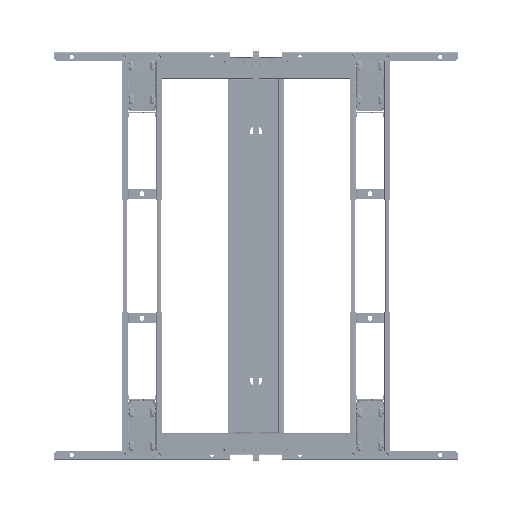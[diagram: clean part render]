
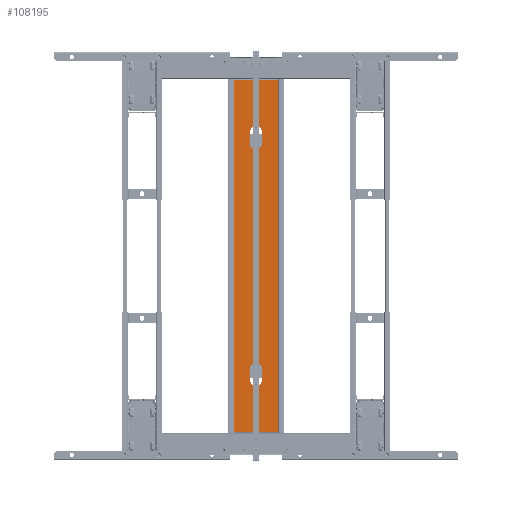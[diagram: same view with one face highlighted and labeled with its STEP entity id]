
A CAD part, top view. The second image highlights one B-rep face of the part: STEP entity #108195.
In plain terms, the highlighted planar face has unit normal (0, 0, 1).
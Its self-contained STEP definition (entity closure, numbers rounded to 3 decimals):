
#107755=CARTESIAN_POINT('Vertex',(602.3,-74.3,1.2)) ;
#108015=CARTESIAN_POINT('Line Origine',(602.3,0.,1.2)) ;
#108019=CARTESIAN_POINT('Vertex',(602.3,74.3,1.2)) ;
#108049=CARTESIAN_POINT('Axis2P3D Location',(0.,0.,1.2)) ;
#108054=CARTESIAN_POINT('Line Origine',(0.,74.3,1.2)) ;
#108058=CARTESIAN_POINT('Vertex',(-602.3,74.3,1.2)) ;
#108061=CARTESIAN_POINT('Line Origine',(-602.3,0.,1.2)) ;
#108065=CARTESIAN_POINT('Vertex',(-602.3,-74.3,1.2)) ;
#108068=CARTESIAN_POINT('Line Origine',(0.,-74.3,1.2)) ;
#108079=CARTESIAN_POINT('Line Origine',(0.,-20.,1.2)) ;
#108083=CARTESIAN_POINT('Vertex',(-424.,-20.,1.2)) ;
#108085=CARTESIAN_POINT('Vertex',(-384.,-20.,1.2)) ;
#108089=CARTESIAN_POINT('Control Point',(-424.,20.,1.2)) ;
#108090=CARTESIAN_POINT('Control Point',(-427.142,20.,1.2)) ;
#108091=CARTESIAN_POINT('Control Point',(-430.283,19.383,1.2)) ;
#108092=CARTESIAN_POINT('Control Point',(-433.263,18.149,1.2)) ;
#108093=CARTESIAN_POINT('Control Point',(-438.578,14.578,1.2)) ;
#108094=CARTESIAN_POINT('Control Point',(-442.149,9.263,1.2)) ;
#108095=CARTESIAN_POINT('Control Point',(-443.383,6.283,1.2)) ;
#108096=CARTESIAN_POINT('Control Point',(-444.617,0.,1.2)) ;
#108097=CARTESIAN_POINT('Control Point',(-443.383,-6.283,1.2)) ;
#108098=CARTESIAN_POINT('Control Point',(-442.149,-9.263,1.2)) ;
#108099=CARTESIAN_POINT('Control Point',(-438.578,-14.578,1.2)) ;
#108100=CARTESIAN_POINT('Control Point',(-433.263,-18.149,1.2)) ;
#108101=CARTESIAN_POINT('Control Point',(-430.283,-19.383,1.2)) ;
#108102=CARTESIAN_POINT('Control Point',(-427.142,-20.,1.2)) ;
#108103=CARTESIAN_POINT('Control Point',(-424.,-20.,1.2)) ;
#108104=CARTESIAN_POINT('Vertex',(-424.,20.,1.2)) ;
#108107=CARTESIAN_POINT('Line Origine',(0.,20.,1.2)) ;
#108111=CARTESIAN_POINT('Vertex',(-384.,20.,1.2)) ;
#108115=CARTESIAN_POINT('Control Point',(-384.,-20.,1.2)) ;
#108116=CARTESIAN_POINT('Control Point',(-380.858,-20.,1.2)) ;
#108117=CARTESIAN_POINT('Control Point',(-377.717,-19.383,1.2)) ;
#108118=CARTESIAN_POINT('Control Point',(-374.737,-18.149,1.2)) ;
#108119=CARTESIAN_POINT('Control Point',(-369.422,-14.578,1.2)) ;
#108120=CARTESIAN_POINT('Control Point',(-365.851,-9.263,1.2)) ;
#108121=CARTESIAN_POINT('Control Point',(-364.617,-6.283,1.2)) ;
#108122=CARTESIAN_POINT('Control Point',(-363.383,0.,1.2)) ;
#108123=CARTESIAN_POINT('Control Point',(-364.617,6.283,1.2)) ;
#108124=CARTESIAN_POINT('Control Point',(-365.851,9.263,1.2)) ;
#108125=CARTESIAN_POINT('Control Point',(-369.422,14.578,1.2)) ;
#108126=CARTESIAN_POINT('Control Point',(-374.737,18.149,1.2)) ;
#108127=CARTESIAN_POINT('Control Point',(-377.717,19.383,1.2)) ;
#108128=CARTESIAN_POINT('Control Point',(-380.858,20.,1.2)) ;
#108129=CARTESIAN_POINT('Control Point',(-384.,20.,1.2)) ;
#108138=CARTESIAN_POINT('Control Point',(424.,-20.,1.2)) ;
#108139=CARTESIAN_POINT('Control Point',(427.142,-20.,1.2)) ;
#108140=CARTESIAN_POINT('Control Point',(430.283,-19.383,1.2)) ;
#108141=CARTESIAN_POINT('Control Point',(433.263,-18.149,1.2)) ;
#108142=CARTESIAN_POINT('Control Point',(438.578,-14.578,1.2)) ;
#108143=CARTESIAN_POINT('Control Point',(442.149,-9.263,1.2)) ;
#108144=CARTESIAN_POINT('Control Point',(443.383,-6.283,1.2)) ;
#108145=CARTESIAN_POINT('Control Point',(444.617,0.,1.2)) ;
#108146=CARTESIAN_POINT('Control Point',(443.383,6.283,1.2)) ;
#108147=CARTESIAN_POINT('Control Point',(442.149,9.263,1.2)) ;
#108148=CARTESIAN_POINT('Control Point',(438.578,14.578,1.2)) ;
#108149=CARTESIAN_POINT('Control Point',(433.263,18.149,1.2)) ;
#108150=CARTESIAN_POINT('Control Point',(430.283,19.383,1.2)) ;
#108151=CARTESIAN_POINT('Control Point',(427.142,20.,1.2)) ;
#108152=CARTESIAN_POINT('Control Point',(424.,20.,1.2)) ;
#108153=CARTESIAN_POINT('Vertex',(424.,-20.,1.2)) ;
#108155=CARTESIAN_POINT('Vertex',(424.,20.,1.2)) ;
#108158=CARTESIAN_POINT('Line Origine',(0.,-20.,1.2)) ;
#108162=CARTESIAN_POINT('Vertex',(384.,-20.,1.2)) ;
#108166=CARTESIAN_POINT('Control Point',(384.,20.,1.2)) ;
#108167=CARTESIAN_POINT('Control Point',(380.858,20.,1.2)) ;
#108168=CARTESIAN_POINT('Control Point',(377.717,19.383,1.2)) ;
#108169=CARTESIAN_POINT('Control Point',(374.737,18.149,1.2)) ;
#108170=CARTESIAN_POINT('Control Point',(369.422,14.578,1.2)) ;
#108171=CARTESIAN_POINT('Control Point',(365.851,9.263,1.2)) ;
#108172=CARTESIAN_POINT('Control Point',(364.617,6.283,1.2)) ;
#108173=CARTESIAN_POINT('Control Point',(363.383,0.,1.2)) ;
#108174=CARTESIAN_POINT('Control Point',(364.617,-6.283,1.2)) ;
#108175=CARTESIAN_POINT('Control Point',(365.851,-9.263,1.2)) ;
#108176=CARTESIAN_POINT('Control Point',(369.422,-14.578,1.2)) ;
#108177=CARTESIAN_POINT('Control Point',(374.737,-18.149,1.2)) ;
#108178=CARTESIAN_POINT('Control Point',(377.717,-19.383,1.2)) ;
#108179=CARTESIAN_POINT('Control Point',(380.858,-20.,1.2)) ;
#108180=CARTESIAN_POINT('Control Point',(384.,-20.,1.2)) ;
#108181=CARTESIAN_POINT('Vertex',(384.,20.,1.2)) ;
#108184=CARTESIAN_POINT('Line Origine',(0.,20.,1.2)) ;
#108016=DIRECTION('Vector Direction',(0.,1.,0.)) ;
#108050=DIRECTION('Axis2P3D Direction',(0.,0.,1.)) ;
#108051=DIRECTION('Axis2P3D XDirection',(1.,0.,0.)) ;
#108055=DIRECTION('Vector Direction',(1.,0.,0.)) ;
#108062=DIRECTION('Vector Direction',(0.,1.,0.)) ;
#108069=DIRECTION('Vector Direction',(1.,0.,0.)) ;
#108080=DIRECTION('Vector Direction',(1.,0.,0.)) ;
#108108=DIRECTION('Vector Direction',(1.,0.,0.)) ;
#108159=DIRECTION('Vector Direction',(1.,0.,0.)) ;
#108185=DIRECTION('Vector Direction',(1.,0.,0.)) ;
#108052=AXIS2_PLACEMENT_3D('Plane Axis2P3D',#108049,#108050,#108051) ;
#108074=ORIENTED_EDGE('',*,*,#108021,.T.) ;
#108075=ORIENTED_EDGE('',*,*,#108060,.F.) ;
#108076=ORIENTED_EDGE('',*,*,#108067,.T.) ;
#108077=ORIENTED_EDGE('',*,*,#108072,.F.) ;
#108132=ORIENTED_EDGE('',*,*,#108087,.F.) ;
#108133=ORIENTED_EDGE('',*,*,#108106,.F.) ;
#108134=ORIENTED_EDGE('',*,*,#108113,.T.) ;
#108135=ORIENTED_EDGE('',*,*,#108130,.F.) ;
#108190=ORIENTED_EDGE('',*,*,#108157,.F.) ;
#108191=ORIENTED_EDGE('',*,*,#108164,.F.) ;
#108192=ORIENTED_EDGE('',*,*,#108183,.F.) ;
#108193=ORIENTED_EDGE('',*,*,#108188,.T.) ;
#108136=FACE_BOUND('',#108131,.T.) ;
#108194=FACE_BOUND('',#108189,.T.) ;
#108017=VECTOR('Line Direction',#108016,1.) ;
#108056=VECTOR('Line Direction',#108055,1.) ;
#108063=VECTOR('Line Direction',#108062,1.) ;
#108070=VECTOR('Line Direction',#108069,1.) ;
#108081=VECTOR('Line Direction',#108080,1.) ;
#108109=VECTOR('Line Direction',#108108,1.) ;
#108160=VECTOR('Line Direction',#108159,1.) ;
#108186=VECTOR('Line Direction',#108185,1.) ;
#108195=ADVANCED_FACE('\X2\96F64EF651E04F554F53\X0\',(#108078,#108136,#108194),#108053,.T.) ;
#108088=B_SPLINE_CURVE_WITH_KNOTS('',5,(#108089,#108090,#108091,#108092,#108093,#108094,#108095,#108096,#108097,#108098,#108099,#108100,#108101,#108102,#108103),.UNSPECIFIED.,.F.,.U.,(6,3,3,3,6),(31.416,47.124,62.832,78.54,94.248),.UNSPECIFIED.) ;
#108114=B_SPLINE_CURVE_WITH_KNOTS('',5,(#108115,#108116,#108117,#108118,#108119,#108120,#108121,#108122,#108123,#108124,#108125,#108126,#108127,#108128,#108129),.UNSPECIFIED.,.F.,.U.,(6,3,3,3,6),(94.248,109.956,125.664,141.372,157.08),.UNSPECIFIED.) ;
#108137=B_SPLINE_CURVE_WITH_KNOTS('',5,(#108138,#108139,#108140,#108141,#108142,#108143,#108144,#108145,#108146,#108147,#108148,#108149,#108150,#108151,#108152),.UNSPECIFIED.,.F.,.U.,(6,3,3,3,6),(94.248,109.956,125.664,141.372,157.08),.UNSPECIFIED.) ;
#108165=B_SPLINE_CURVE_WITH_KNOTS('',5,(#108166,#108167,#108168,#108169,#108170,#108171,#108172,#108173,#108174,#108175,#108176,#108177,#108178,#108179,#108180),.UNSPECIFIED.,.F.,.U.,(6,3,3,3,6),(31.416,47.124,62.832,78.54,94.248),.UNSPECIFIED.) ;
#108021=EDGE_CURVE('',#107756,#108020,#108018,.T.) ;
#108060=EDGE_CURVE('',#108059,#108020,#108057,.T.) ;
#108067=EDGE_CURVE('',#108059,#108066,#108064,.F.) ;
#108072=EDGE_CURVE('',#107756,#108066,#108071,.F.) ;
#108087=EDGE_CURVE('',#108084,#108086,#108082,.T.) ;
#108106=EDGE_CURVE('',#108105,#108084,#108088,.T.) ;
#108113=EDGE_CURVE('',#108105,#108112,#108110,.T.) ;
#108130=EDGE_CURVE('',#108086,#108112,#108114,.T.) ;
#108157=EDGE_CURVE('',#108154,#108156,#108137,.T.) ;
#108164=EDGE_CURVE('',#108163,#108154,#108161,.T.) ;
#108183=EDGE_CURVE('',#108182,#108163,#108165,.T.) ;
#108188=EDGE_CURVE('',#108182,#108156,#108187,.T.) ;
#108073=EDGE_LOOP('',(#108074,#108075,#108076,#108077)) ;
#108131=EDGE_LOOP('',(#108132,#108133,#108134,#108135)) ;
#108189=EDGE_LOOP('',(#108190,#108191,#108192,#108193)) ;
#108078=FACE_OUTER_BOUND('',#108073,.T.) ;
#108018=LINE('Line',#108015,#108017) ;
#108057=LINE('Line',#108054,#108056) ;
#108064=LINE('Line',#108061,#108063) ;
#108071=LINE('Line',#108068,#108070) ;
#108082=LINE('Line',#108079,#108081) ;
#108110=LINE('Line',#108107,#108109) ;
#108161=LINE('Line',#108158,#108160) ;
#108187=LINE('Line',#108184,#108186) ;
#108053=PLANE('',#108052) ;
#107756=VERTEX_POINT('',#107755) ;
#108020=VERTEX_POINT('',#108019) ;
#108059=VERTEX_POINT('',#108058) ;
#108066=VERTEX_POINT('',#108065) ;
#108084=VERTEX_POINT('',#108083) ;
#108086=VERTEX_POINT('',#108085) ;
#108105=VERTEX_POINT('',#108104) ;
#108112=VERTEX_POINT('',#108111) ;
#108154=VERTEX_POINT('',#108153) ;
#108156=VERTEX_POINT('',#108155) ;
#108163=VERTEX_POINT('',#108162) ;
#108182=VERTEX_POINT('',#108181) ;
